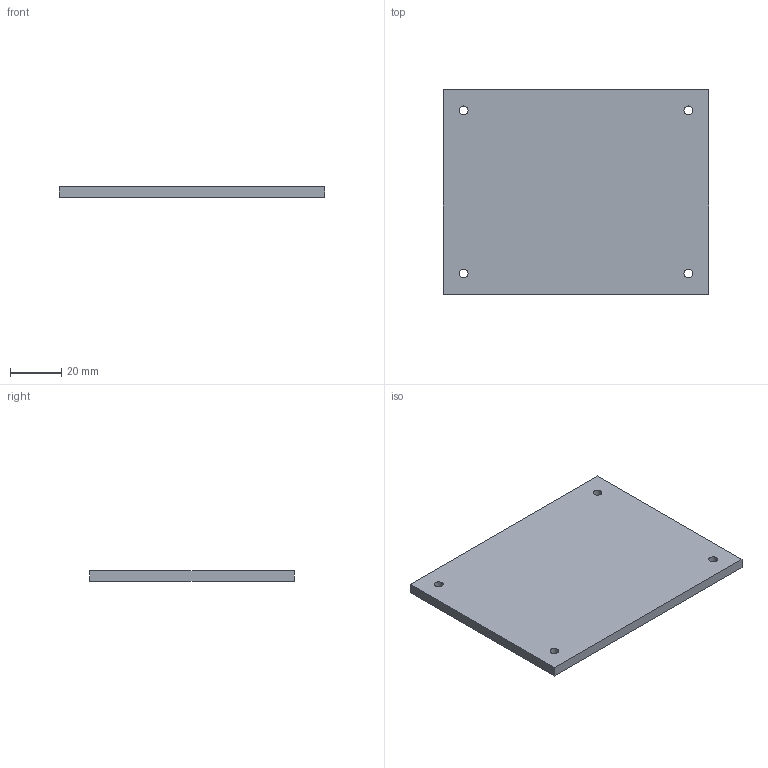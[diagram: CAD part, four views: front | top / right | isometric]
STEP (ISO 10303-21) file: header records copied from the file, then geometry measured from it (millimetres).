
FILE_DESCRIPTION(('Open CASCADE Model'),'2;1');
FILE_NAME('Open CASCADE Shape Model','2026-09-10T23:36:51',('Author'),( 'Open CASCADE'),'Open CASCADE STEP processor 7.9','Open CASCADE 7.9' ,'Unknown');
FILE_SCHEMA(('AUTOMOTIVE_DESIGN { 1 0 10303 214 1 1 1 1 }'));
Length unit declared in the file: millimetre
Products named in the file (1): Open CASCADE STEP translator 7.9 16
Bounding box: 104 x 80 x 4 mm (x, y, z)
Volume: 33134.7 mm3; surface area: 18210.3 mm2
Topology: 1 solids, 1 shells, 10 faces, 24 edges, 16 vertices
Faces by surface type: plane 6, cylinder 4
Full cylindrical faces by diameter (mm): 3.4 x4
Entity records: 658 total; most frequent: CARTESIAN_POINT 147, DIRECTION 94, LINE 56, VECTOR 56, ORIENTED_EDGE 48, PCURVE 48, DEFINITIONAL_REPRESENTATION 48, EDGE_CURVE 24
